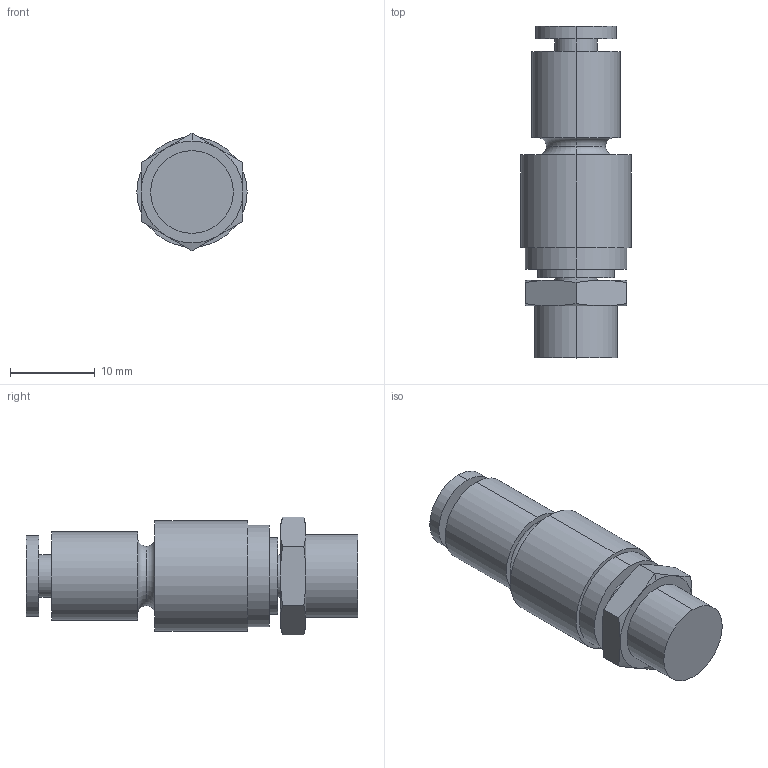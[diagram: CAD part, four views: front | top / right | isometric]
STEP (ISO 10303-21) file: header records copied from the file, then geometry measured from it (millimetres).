
FILE_DESCRIPTION (( 'STEP AP203' ), '1' );
FILE_NAME ('FKXH04-01.STEP', '2022-04-18T15:08:19', ( '' ), ( '' ), 'SwSTEP 2.0', 'SolidWorks 2019', '' );
FILE_SCHEMA (( 'CONFIG_CONTROL_DESIGN' ));
Length unit declared in the file: millimetre
Products named in the file (1): FKXH04-01
Bounding box: 13 x 39.1 x 13.86 mm (x, y, z)
Volume: 3525 mm3; surface area: 2180.8 mm2
Topology: 1 solids, 1 shells, 54 faces, 110 edges, 68 vertices
Faces by surface type: cylinder 18, plane 18, cone 14, torus 4
Entity records: 1743 total; most frequent: CARTESIAN_POINT 521, DIRECTION 256, ORIENTED_EDGE 220, AXIS2_PLACEMENT_3D 115, EDGE_CURVE 110, VERTEX_POINT 68, EDGE_LOOP 64, CIRCLE 60
